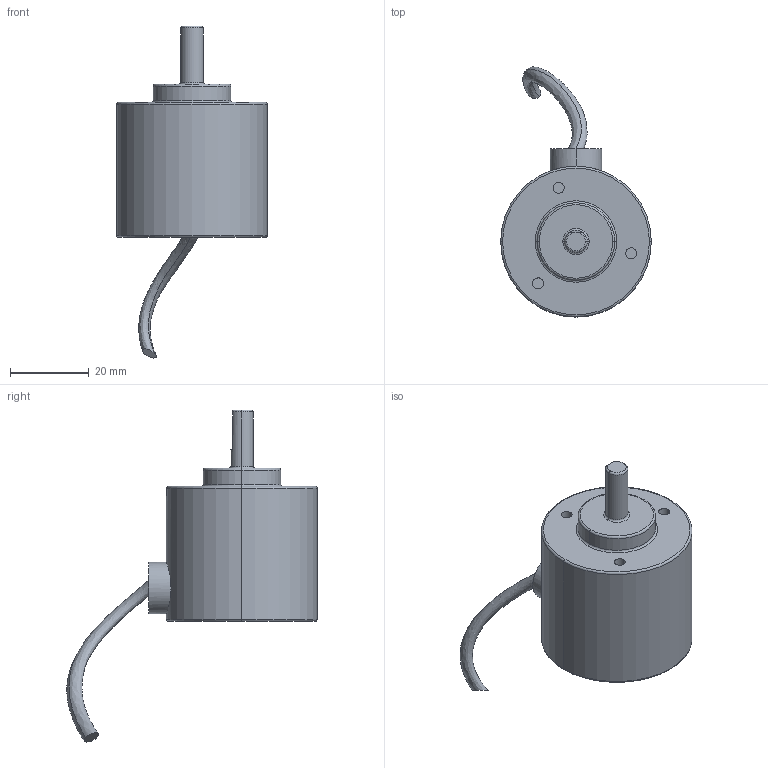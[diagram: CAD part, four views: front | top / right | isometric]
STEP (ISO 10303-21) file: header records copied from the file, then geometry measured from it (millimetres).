
FILE_DESCRIPTION (( 'STEP AP203' ), '1' );
FILE_NAME ('encoder.STEP', '2025-10-13T11:01:37', ( '' ), ( '' ), 'SwSTEP 2.0', 'SolidWorks 2023', '' );
FILE_SCHEMA (( 'CONFIG_CONTROL_DESIGN' ));
Length unit declared in the file: millimetre
Products named in the file (1): encoder
Bounding box: 38.3 x 63.62 x 84.39 mm (x, y, z)
Volume: 42273.3 mm3; surface area: 7769.6 mm2
Topology: 1 solids, 1 shells, 40 faces, 80 edges, 49 vertices
Faces by surface type: cylinder 14, torus 13, plane 11, bspline 2
Entity records: 1542 total; most frequent: CARTESIAN_POINT 598, DIRECTION 209, ORIENTED_EDGE 160, AXIS2_PLACEMENT_3D 96, EDGE_CURVE 80, CIRCLE 57, VERTEX_POINT 49, EDGE_LOOP 47
